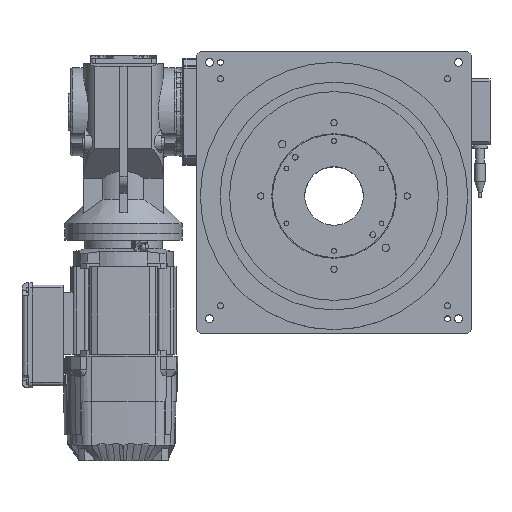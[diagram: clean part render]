
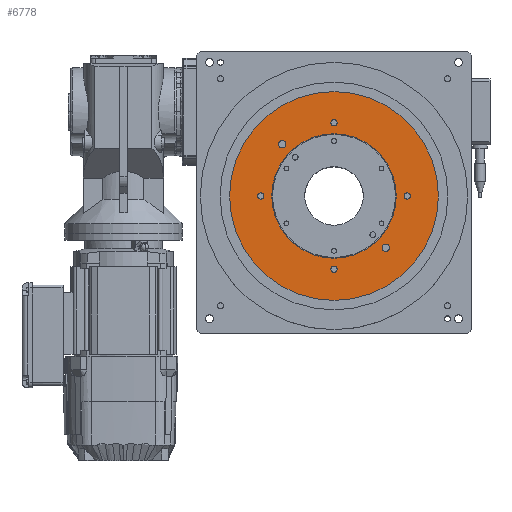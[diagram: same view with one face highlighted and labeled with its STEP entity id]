
A CAD part, top view. The second image highlights one B-rep face of the part: STEP entity #6778.
In plain terms, the highlighted planar face has unit normal (0, 0, 1).
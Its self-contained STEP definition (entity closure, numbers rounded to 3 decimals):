
#6778=ADVANCED_FACE('',(#14467,#14468,#14469,#14470,#14471,#14472,#14473,#14474),#14475,.T.);
#14467=FACE_BOUND('',#28276,.T.);
#14468=FACE_BOUND('',#28277,.T.);
#14469=FACE_BOUND('',#28278,.T.);
#14470=FACE_BOUND('',#28279,.T.);
#14471=FACE_BOUND('',#28280,.T.);
#14472=FACE_BOUND('',#28281,.T.);
#14473=FACE_OUTER_BOUND('',#28282,.T.);
#14474=FACE_BOUND('',#28283,.T.);
#14475=PLANE('',#28284);
#28276=EDGE_LOOP('',(#54243,#54244));
#28277=EDGE_LOOP('',(#54245,#54246));
#28278=EDGE_LOOP('',(#54247,#54248));
#28279=EDGE_LOOP('',(#54249,#54250));
#28280=EDGE_LOOP('',(#54251,#54252));
#28281=EDGE_LOOP('',(#54253,#54254));
#28282=EDGE_LOOP('',(#54255,#54256));
#28283=EDGE_LOOP('',(#54257,#54258));
#28284=AXIS2_PLACEMENT_3D('',#54259,#54260,#54261);
#54243=ORIENTED_EDGE('',*,*,#63158,.T.);
#54244=ORIENTED_EDGE('',*,*,#68150,.T.);
#54245=ORIENTED_EDGE('',*,*,#63163,.T.);
#54246=ORIENTED_EDGE('',*,*,#68151,.T.);
#54247=ORIENTED_EDGE('',*,*,#63168,.T.);
#54248=ORIENTED_EDGE('',*,*,#68152,.T.);
#54249=ORIENTED_EDGE('',*,*,#63173,.T.);
#54250=ORIENTED_EDGE('',*,*,#68153,.T.);
#54251=ORIENTED_EDGE('',*,*,#63178,.T.);
#54252=ORIENTED_EDGE('',*,*,#68154,.T.);
#54253=ORIENTED_EDGE('',*,*,#63183,.T.);
#54254=ORIENTED_EDGE('',*,*,#68155,.T.);
#54255=ORIENTED_EDGE('',*,*,#68148,.T.);
#54256=ORIENTED_EDGE('',*,*,#63191,.T.);
#54257=ORIENTED_EDGE('',*,*,#63348,.T.);
#54258=ORIENTED_EDGE('',*,*,#63341,.T.);
#54259=CARTESIAN_POINT('',(0.0,0.0,0.0));
#54260=DIRECTION('',(0.0,0.0,1.0));
#54261=DIRECTION('',(-1.0,0.0,0.0));
#63158=EDGE_CURVE('',#74478,#74482,#74484,.T.);
#63163=EDGE_CURVE('',#74487,#74491,#74493,.T.);
#63168=EDGE_CURVE('',#74496,#74500,#74502,.T.);
#63173=EDGE_CURVE('',#74505,#74509,#74511,.T.);
#63178=EDGE_CURVE('',#74514,#74518,#74520,.T.);
#63183=EDGE_CURVE('',#74523,#74527,#74529,.T.);
#63191=EDGE_CURVE('',#74543,#74540,#74544,.T.);
#63341=EDGE_CURVE('',#74813,#74810,#74814,.T.);
#63348=EDGE_CURVE('',#74810,#74813,#74822,.T.);
#68148=EDGE_CURVE('',#74540,#74543,#81916,.T.);
#68150=EDGE_CURVE('',#74482,#74478,#81918,.T.);
#68151=EDGE_CURVE('',#74491,#74487,#81919,.T.);
#68152=EDGE_CURVE('',#74500,#74496,#81920,.T.);
#68153=EDGE_CURVE('',#74509,#74505,#81921,.T.);
#68154=EDGE_CURVE('',#74518,#74514,#81922,.T.);
#68155=EDGE_CURVE('',#74527,#74523,#81923,.T.);
#74478=VERTEX_POINT('',#92499);
#74482=VERTEX_POINT('',#92504);
#74484=CIRCLE('',#92507,5.0);
#74487=VERTEX_POINT('',#92510);
#74491=VERTEX_POINT('',#92515);
#74493=CIRCLE('',#92518,5.0);
#74496=VERTEX_POINT('',#92521);
#74500=VERTEX_POINT('',#92526);
#74502=CIRCLE('',#92529,4.338);
#74505=VERTEX_POINT('',#92532);
#74509=VERTEX_POINT('',#92537);
#74511=CIRCLE('',#92540,4.338);
#74514=VERTEX_POINT('',#92543);
#74518=VERTEX_POINT('',#92548);
#74520=CIRCLE('',#92551,4.338);
#74523=VERTEX_POINT('',#92554);
#74527=VERTEX_POINT('',#92559);
#74529=CIRCLE('',#92562,4.338);
#74540=VERTEX_POINT('',#92575);
#74543=VERTEX_POINT('',#92579);
#74544=CIRCLE('',#92580,142.5);
#74810=VERTEX_POINT('',#92905);
#74813=VERTEX_POINT('',#92909);
#74814=CIRCLE('',#92910,85.0);
#74822=CIRCLE('',#92919,85.0);
#81916=CIRCLE('',#106498,142.5);
#81918=CIRCLE('',#106500,5.0);
#81919=CIRCLE('',#106501,5.0);
#81920=CIRCLE('',#106502,4.338);
#81921=CIRCLE('',#106503,4.338);
#81922=CIRCLE('',#106504,4.338);
#81923=CIRCLE('',#106505,4.338);
#92499=CARTESIAN_POINT('',(-65.711,70.711,0.0));
#92504=CARTESIAN_POINT('',(-75.711,70.711,0.0));
#92507=AXIS2_PLACEMENT_3D('',#114848,#114849,#114850);
#92510=CARTESIAN_POINT('',(75.711,-70.711,0.0));
#92515=CARTESIAN_POINT('',(65.711,-70.711,0.0));
#92518=AXIS2_PLACEMENT_3D('',#114856,#114857,#114858);
#92521=CARTESIAN_POINT('',(4.338,-100.0,0.0));
#92526=CARTESIAN_POINT('',(-4.338,-100.0,0.0));
#92529=AXIS2_PLACEMENT_3D('',#114864,#114865,#114866);
#92532=CARTESIAN_POINT('',(-95.662,0.0,0.0));
#92537=CARTESIAN_POINT('',(-104.338,0.,0.0));
#92540=AXIS2_PLACEMENT_3D('',#114872,#114873,#114874);
#92543=CARTESIAN_POINT('',(4.338,100.0,0.0));
#92548=CARTESIAN_POINT('',(-4.338,100.0,0.0));
#92551=AXIS2_PLACEMENT_3D('',#114880,#114881,#114882);
#92554=CARTESIAN_POINT('',(104.338,0.0,0.0));
#92559=CARTESIAN_POINT('',(95.662,0.,0.0));
#92562=AXIS2_PLACEMENT_3D('',#114888,#114889,#114890);
#92575=CARTESIAN_POINT('',(142.5,0.0,0.0));
#92579=CARTESIAN_POINT('',(-142.5,0.,0.0));
#92580=AXIS2_PLACEMENT_3D('',#114900,#114901,#114902);
#92905=CARTESIAN_POINT('',(85.0,0.0,0.0));
#92909=CARTESIAN_POINT('',(-85.0,0.,0.0));
#92910=AXIS2_PLACEMENT_3D('',#115140,#115141,#115142);
#92919=AXIS2_PLACEMENT_3D('',#115153,#115154,#115155);
#106498=AXIS2_PLACEMENT_3D('',#118107,#118108,#118109);
#106500=AXIS2_PLACEMENT_3D('',#118110,#118111,#118112);
#106501=AXIS2_PLACEMENT_3D('',#118113,#118114,#118115);
#106502=AXIS2_PLACEMENT_3D('',#118116,#118117,#118118);
#106503=AXIS2_PLACEMENT_3D('',#118119,#118120,#118121);
#106504=AXIS2_PLACEMENT_3D('',#118122,#118123,#118124);
#106505=AXIS2_PLACEMENT_3D('',#118125,#118126,#118127);
#114848=CARTESIAN_POINT('',(-70.711,70.711,0.0));
#114849=DIRECTION('',(0.0,0.0,-1.0));
#114850=DIRECTION('',(1.0,0.0,0.0));
#114856=CARTESIAN_POINT('',(70.711,-70.711,0.0));
#114857=DIRECTION('',(0.0,0.0,-1.0));
#114858=DIRECTION('',(1.0,0.0,0.0));
#114864=CARTESIAN_POINT('',(0.0,-100.0,0.0));
#114865=DIRECTION('',(0.0,0.0,-1.0));
#114866=DIRECTION('',(1.0,0.0,0.0));
#114872=CARTESIAN_POINT('',(-100.0,0.0,0.0));
#114873=DIRECTION('',(0.0,0.0,-1.0));
#114874=DIRECTION('',(1.0,0.0,0.0));
#114880=CARTESIAN_POINT('',(0.0,100.0,0.0));
#114881=DIRECTION('',(0.0,0.0,-1.0));
#114882=DIRECTION('',(1.0,0.0,0.0));
#114888=CARTESIAN_POINT('',(100.0,0.0,0.0));
#114889=DIRECTION('',(0.0,0.0,-1.0));
#114890=DIRECTION('',(1.0,0.0,0.0));
#114900=CARTESIAN_POINT('',(0.0,0.0,0.0));
#114901=DIRECTION('',(0.0,0.0,1.0));
#114902=DIRECTION('',(1.0,0.0,0.0));
#115140=CARTESIAN_POINT('',(0.0,0.0,0.0));
#115141=DIRECTION('',(0.0,0.0,-1.0));
#115142=DIRECTION('',(1.0,0.0,0.0));
#115153=CARTESIAN_POINT('',(0.0,0.0,0.0));
#115154=DIRECTION('',(0.0,0.0,-1.0));
#115155=DIRECTION('',(1.0,0.0,0.0));
#118107=CARTESIAN_POINT('',(0.0,0.0,0.0));
#118108=DIRECTION('',(0.0,0.0,1.0));
#118109=DIRECTION('',(1.0,0.0,0.0));
#118110=CARTESIAN_POINT('',(-70.711,70.711,0.0));
#118111=DIRECTION('',(0.0,0.0,-1.0));
#118112=DIRECTION('',(1.0,0.0,0.0));
#118113=CARTESIAN_POINT('',(70.711,-70.711,0.0));
#118114=DIRECTION('',(0.0,0.0,-1.0));
#118115=DIRECTION('',(1.0,0.0,0.0));
#118116=CARTESIAN_POINT('',(0.0,-100.0,0.0));
#118117=DIRECTION('',(0.0,0.0,-1.0));
#118118=DIRECTION('',(1.0,0.0,0.0));
#118119=CARTESIAN_POINT('',(-100.0,0.0,0.0));
#118120=DIRECTION('',(0.0,0.0,-1.0));
#118121=DIRECTION('',(1.0,0.0,0.0));
#118122=CARTESIAN_POINT('',(0.0,100.0,0.0));
#118123=DIRECTION('',(0.0,0.0,-1.0));
#118124=DIRECTION('',(1.0,0.0,0.0));
#118125=CARTESIAN_POINT('',(100.0,0.0,0.0));
#118126=DIRECTION('',(0.0,0.0,-1.0));
#118127=DIRECTION('',(1.0,0.0,0.0));
